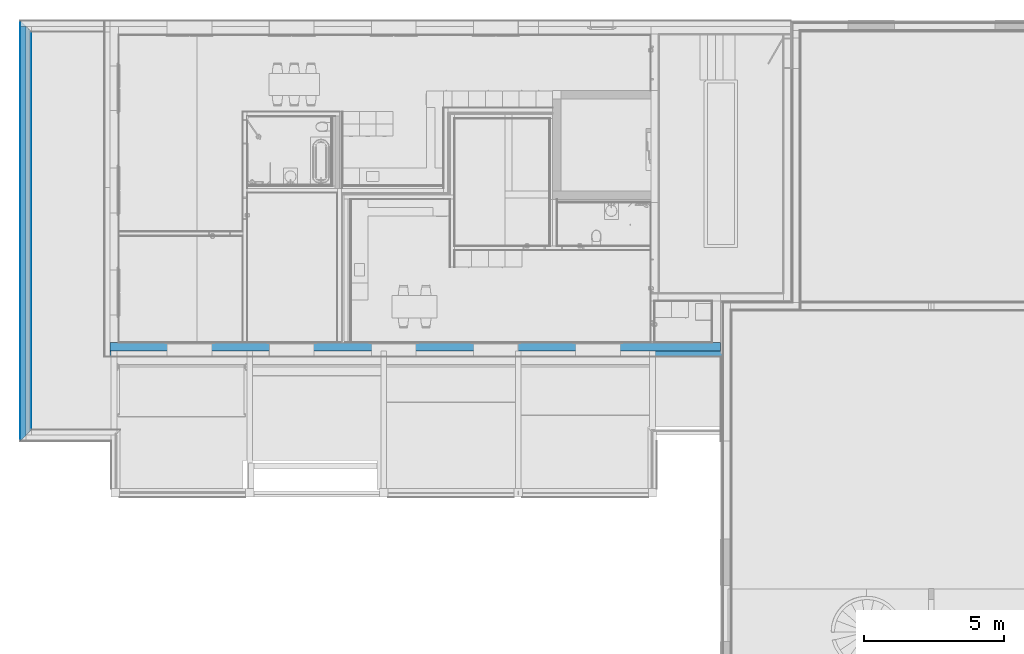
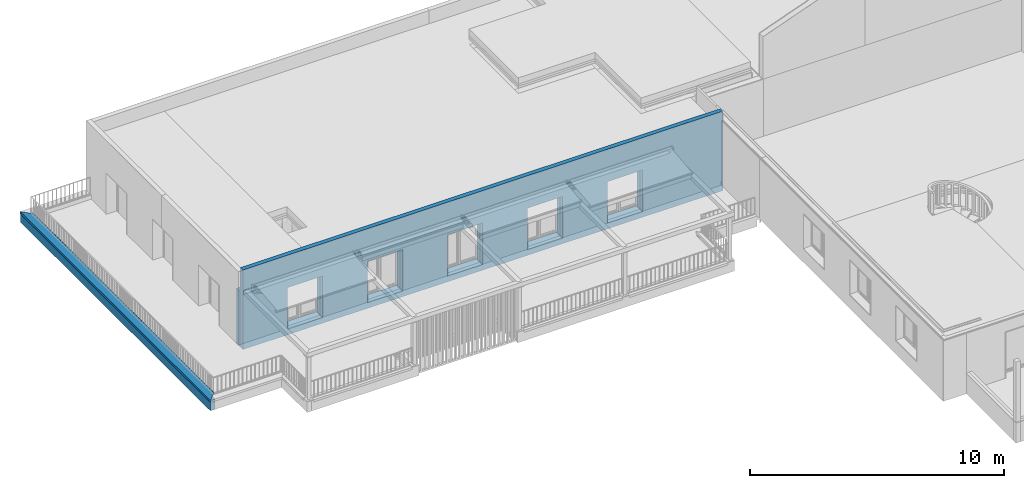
# One storey, part 6 of 36: 6 building element parts, 10 openings, 4 elements without a shape of their own.
"""IFC4 building model written with IfcOpenShell, lengths in millimetres."""

from ifc_helpers import new_model, entity, si_unit, converted_unit, derived_unit, direction, frame, origin_with_axes, place, context, subcontext, project, spatial, polygons, material, type_object, element, aggregate, save


model = new_model("IFC4")

# Units and contexts
model_context = context("Model", 3, precision=0.01, world=origin_with_axes(), true_north=direction((0.0, 1.0)))
body_context = subcontext(model_context, "Body", "Model", "MODEL_VIEW")
ifc_project = project(units=[si_unit("LENGTHUNIT", "METRE", prefix="MILLI"), si_unit("AREAUNIT", "SQUARE_METRE"), si_unit("VOLUMEUNIT", "CUBIC_METRE"), converted_unit("PLANEANGLEUNIT", "DEGREE", entity("IfcPlaneAngleMeasure", 0.0174532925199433), si_unit("PLANEANGLEUNIT", "RADIAN"), dimensions=[0, 0, 0, 0, 0, 0, 0]), converted_unit("TIMEUNIT", "Year", entity("IfcTimeMeasure", 31557600.0), si_unit("TIMEUNIT", "SECOND"), dimensions=[0, 0, 1, 0, 0, 0, 0]), si_unit("MASSUNIT", "GRAM", prefix="KILO"), si_unit("THERMODYNAMICTEMPERATUREUNIT", "DEGREE_CELSIUS"), si_unit("LUMINOUSINTENSITYUNIT", "LUMEN"), si_unit("ENERGYUNIT", "JOULE", prefix="MEGA"), derived_unit("THERMALCONDUCTANCEUNIT", [(si_unit("POWERUNIT", "WATT"), 1), (si_unit("LENGTHUNIT", "METRE"), -1), (si_unit("THERMODYNAMICTEMPERATUREUNIT", "KELVIN"), -1)]), derived_unit("SPECIFICHEATCAPACITYUNIT", [(si_unit("ENERGYUNIT", "JOULE"), 1), (si_unit("MASSUNIT", "GRAM", prefix="KILO"), -1), (si_unit("THERMODYNAMICTEMPERATUREUNIT", "KELVIN"), -1)]), derived_unit("MASSDENSITYUNIT", [(si_unit("MASSUNIT", "GRAM", prefix="KILO"), 1), (si_unit("VOLUMEUNIT", "CUBIC_METRE"), -1)])], contexts=[model_context])

# Site, building, storey
site_placement = place(None, origin_with_axes())
site = spatial("IfcSite", under=ifc_project, at=site_placement, Name="Gelände", CompositionType="ELEMENT")
building_placement = place(site_placement, origin_with_axes())
building = spatial("IfcBuilding", under=site, at=building_placement, Name="Gebäude", CompositionType="ELEMENT")
storey_placement = place(building_placement, frame((0.0, 0.0, 8700.0), z_axis=(0.0, 0.0, 1.0), x_axis=(1.0, 0.0, 0.0)))
storey = spatial("IfcBuildingStorey", under=building, at=storey_placement, Name="Attika", CompositionType="ELEMENT", Elevation=8700.0)

# Curtain wall, openings, building element part
curtain_wall_type = type_object("IfcCurtainWallType", Name="Fassade Typ 01 - Kompaktfassade 210", PredefinedType="NOTDEFINED")
curtain_wall_1_placement = place(storey_placement, frame((-4071.004181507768, 25947.59674077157, 0.0), z_axis=(0.0, 0.0, 1.0), x_axis=(1.0, 0.0, 0.0)))
curtain_wall_1 = element("IfcCurtainWall", 1, at=curtain_wall_1_placement, inside=storey, type_object=curtain_wall_type, Name="Wand-014", PredefinedType="NOTDEFINED")
opening_1_placement = place(curtain_wall_1_placement, frame((3043.999999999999, 0.0, 261.9999480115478), z_axis=(0.0, 0.0, 1.0), x_axis=(1.0, 0.0, 0.0)))
element("IfcOpeningElement", 2, at=opening_1_placement, cuts=curtain_wall_1, Name="Fenster-004", context=body_context, identifier="Reference", shape_type="Tessellation", body=[
    polygons([(-802.0, -1.000000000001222, 2010.0), (-802.0, -1.000000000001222, 0.0), (802.0000000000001, -1.000000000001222, 0.0), (802.0000000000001, -1.000000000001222, 2010.0), (-802.0, 211.0000000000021, 2010.0), (-802.0, 211.0000000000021, 0.0), (802.0000000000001, 211.0000000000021, 0.0), (802.0000000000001, 211.0000000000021, 2010.0)], [[[1, 2, 3, 4]], [[5, 6, 2, 1]], [[6, 7, 3, 2]], [[7, 8, 4, 3]], [[8, 5, 1, 4]], [[7, 6, 5, 8]]], closed=True),
])
opening_2_placement = place(curtain_wall_1_placement, frame((10328.0, 0.0, 261.9999480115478), z_axis=(0.0, 0.0, 1.0), x_axis=(1.0, 0.0, 0.0)))
element("IfcOpeningElement", 3, at=opening_2_placement, cuts=curtain_wall_1, Name="Fenster-004", context=body_context, identifier="Reference", shape_type="Tessellation", body=[
    polygons([(-802.0000000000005, -1.000000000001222, 2010.0), (-802.0000000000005, -1.000000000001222, 0.0), (802.0000000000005, -1.000000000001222, 0.0), (802.0000000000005, -1.000000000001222, 2010.0), (-802.0000000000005, 211.0000000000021, 2010.0), (-802.0000000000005, 211.0000000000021, 0.0), (802.0000000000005, 211.0000000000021, 0.0), (802.0000000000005, 211.0000000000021, 2010.0)], [[[1, 2, 3, 4]], [[5, 6, 2, 1]], [[6, 7, 3, 2]], [[7, 8, 4, 3]], [[8, 5, 1, 4]], [[7, 6, 5, 8]]], closed=True),
])
opening_3_placement = place(curtain_wall_1_placement, frame((6685.999999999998, 0.0, 261.9999480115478), z_axis=(0.0, 0.0, 1.0), x_axis=(1.0, 0.0, 0.0)))
element("IfcOpeningElement", 4, at=opening_3_placement, cuts=curtain_wall_1, Name="Fenster-004", context=body_context, identifier="Reference", shape_type="Tessellation", body=[
    polygons([(-802.0, -1.000000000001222, 2010.0), (-802.0, -1.000000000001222, 0.0), (802.0, -1.000000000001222, 0.0), (802.0, -1.000000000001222, 2010.0), (-802.0, 211.0000000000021, 2010.0), (-802.0, 211.0000000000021, 0.0), (802.0, 211.0000000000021, 0.0), (802.0, 211.0000000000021, 2010.0)], [[[1, 2, 3, 4]], [[5, 6, 2, 1]], [[6, 7, 3, 2]], [[7, 8, 4, 3]], [[8, 5, 1, 4]], [[7, 6, 5, 8]]], closed=True),
])
opening_4_placement = place(curtain_wall_1_placement, frame((13969.99999999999, 0.0, 261.9999480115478), z_axis=(0.0, 0.0, 1.0), x_axis=(1.0, 0.0, 0.0)))
element("IfcOpeningElement", 5, at=opening_4_placement, cuts=curtain_wall_1, Name="Fenster-004", context=body_context, identifier="Reference", shape_type="Tessellation", body=[
    polygons([(-801.9999999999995, -1.000000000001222, 2010.0), (-801.9999999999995, -1.000000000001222, 0.0), (801.9999999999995, -1.000000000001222, 0.0), (801.9999999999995, -1.000000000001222, 2010.0), (-801.9999999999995, 211.0000000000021, 2010.0), (-801.9999999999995, 211.0000000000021, 0.0), (801.9999999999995, 211.0000000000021, 0.0), (801.9999999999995, 211.0000000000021, 2010.0)], [[[1, 2, 3, 4]], [[5, 6, 2, 1]], [[6, 7, 3, 2]], [[7, 8, 4, 3]], [[8, 5, 1, 4]], [[7, 6, 5, 8]]], closed=True),
])
opening_5_placement = place(curtain_wall_1_placement, frame((17612.0, 0.0, 261.9999480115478), z_axis=(0.0, 0.0, 1.0), x_axis=(1.0, 0.0, 0.0)))
element("IfcOpeningElement", 6, at=opening_5_placement, cuts=curtain_wall_1, Name="Fenster-004", context=body_context, identifier="Reference", shape_type="Tessellation", body=[
    polygons([(-801.9999999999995, -1.000000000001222, 2010.0), (-801.9999999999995, -1.000000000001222, 0.0), (801.9999999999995, -1.000000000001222, 0.0), (801.9999999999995, -1.000000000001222, 2010.0), (-801.9999999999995, 211.0000000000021, 2010.0), (-801.9999999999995, 211.0000000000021, 0.0), (801.9999999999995, 211.0000000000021, 0.0), (801.9999999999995, 211.0000000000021, 2010.0)], [[[1, 2, 3, 4]], [[5, 6, 2, 1]], [[6, 7, 3, 2]], [[7, 8, 4, 3]], [[8, 5, 1, 4]], [[7, 6, 5, 8]]], closed=True),
])
ifc_material_1 = material(Name="Dämmung Aussen")
building_element_part_1_placement = place(curtain_wall_1_placement, origin_with_axes())
building_element_part_1 = element("IfcBuildingElementPart", 7, at=building_element_part_1_placement, material=ifc_material_1, Name="Dämmung Aussen", PredefinedType="NOTDEFINED", context=body_context, shape_type="Tessellation", body=[
    polygons([(22071.00162627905, 10.00000000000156, 3830.999999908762), (210.0000000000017, 10.00000000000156, 3830.999999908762), (210.0000000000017, 10.00000000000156, 0.0), (22071.00162627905, 10.00000000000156, 0.0), (14868.19999999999, 9.999999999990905, 2650.0), (14668.19999999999, 9.999999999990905, 2650.0), (10077.39999999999, 9.999999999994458, 2650.0), (9877.39999999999, 9.999999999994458, 2650.0), (5286.599999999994, 9.99999999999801, 2650.0), (5086.599999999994, 9.99999999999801, 2650.0), (445.8000000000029, 9.99999999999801, 2650.0), (245.8000000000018, 10.00000000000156, 2650.0), (245.8000000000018, 10.00000000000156, 2850.0), (445.8000000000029, 9.99999999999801, 2850.0), (5086.599999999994, 9.99999999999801, 2850.0), (5286.599999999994, 9.999999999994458, 2850.0), (9877.39999999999, 9.999999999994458, 2850.0), (10077.39999999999, 9.999999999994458, 2850.0), (14668.19999999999, 9.999999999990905, 2850.0), (14868.19999999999, 9.999999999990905, 2850.0), (19458.99999999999, 9.999999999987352, 2850.0), (19658.99999999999, 10.00000000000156, 2850.0), (19658.99999999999, 10.00000000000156, 2650.0), (19458.99999999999, 9.999999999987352, 2650.0), (2241.999999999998, 10.00000000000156, 261.9999480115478), (2241.999999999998, 10.00000000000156, 2271.999948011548), (3845.999999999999, 10.00000000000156, 2271.999948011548), (3845.999999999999, 10.00000000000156, 261.9999480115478), (7487.999999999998, 10.00000000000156, 261.9999480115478), (5883.999999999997, 10.00000000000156, 261.9999480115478), (5883.999999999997, 10.00000000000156, 2271.999948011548), (7487.999999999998, 10.00000000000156, 2271.999948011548), (11130.0, 10.00000000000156, 2271.999948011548), (11130.0, 10.00000000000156, 261.9999480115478), (9526.0, 10.00000000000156, 261.9999480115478), (9526.0, 10.00000000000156, 2271.999948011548), (13168.0, 10.00000000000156, 2271.999948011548), (14771.99999999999, 10.00000000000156, 2271.999948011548), (14771.99999999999, 10.00000000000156, 261.9999480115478), (13168.0, 10.00000000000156, 261.9999480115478), (16810.0, 10.00000000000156, 261.9999480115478), (16810.0, 10.00000000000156, 2271.999948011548), (18414.0, 10.00000000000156, 2271.999948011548), (18414.0, 10.00000000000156, 261.9999480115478), (22071.00162627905, 210.0000000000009, 3830.999999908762), (210.0000000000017, 210.0000000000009, 3830.999999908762), (210.0000000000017, 210.0000000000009, 0.0), (22071.00162627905, 210.0000000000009, 0.0), (19658.99999999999, 210.0000000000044, 2650.0), (245.8000000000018, 210.0000000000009, 2650.0), (245.8000000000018, 210.0000000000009, 2850.0), (19658.99999999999, 210.0000000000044, 2850.0), (2241.999999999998, 210.0000000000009, 261.9999480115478), (2241.999999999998, 210.0000000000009, 2271.999948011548), (3845.999999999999, 210.0000000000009, 2271.999948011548), (3845.999999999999, 210.0000000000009, 261.9999480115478), (7487.999999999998, 210.0000000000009, 261.9999480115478), (5883.999999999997, 210.0000000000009, 261.9999480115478), (5883.999999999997, 210.0000000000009, 2271.999948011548), (7487.999999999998, 210.0000000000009, 2271.999948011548), (11130.0, 210.0000000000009, 2271.999948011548), (11130.0, 210.0000000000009, 261.9999480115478), (9526.0, 210.0000000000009, 261.9999480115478), (9526.0, 210.0000000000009, 2271.999948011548), (14771.99999999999, 210.0000000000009, 2271.999948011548), (13168.0, 210.0000000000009, 2271.999948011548), (14771.99999999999, 210.0000000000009, 261.9999480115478), (13168.0, 210.0000000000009, 261.9999480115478), (16810.0, 210.0000000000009, 261.9999480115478), (16810.0, 210.0000000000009, 2271.999948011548), (18414.0, 210.0000000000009, 2271.999948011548), (18414.0, 210.0000000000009, 261.9999480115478)], [[[1, 2, 3, 4], [5, 6, 7, 8, 9, 10, 11, 12, 13, 14, 15, 16, 17, 18, 19, 20, 21, 22, 23, 24], [25, 26, 27, 28], [29, 30, 31, 32], [33, 34, 35, 36], [37, 38, 39, 40], [41, 42, 43, 44]], [[1, 45, 46, 2]], [[2, 46, 47, 3]], [[48, 4, 3, 47]], [[45, 1, 4, 48]], [[8, 7, 6, 5, 24, 23, 49, 50, 12, 11, 10, 9]], [[51, 13, 12, 50]], [[51, 52, 22, 21, 20, 19, 18, 17, 16, 15, 14, 13]], [[49, 23, 22, 52]], [[53, 54, 26, 25]], [[54, 55, 27, 26]], [[55, 56, 28, 27]], [[56, 53, 25, 28]], [[29, 57, 58, 30]], [[30, 58, 59, 31]], [[31, 59, 60, 32]], [[32, 60, 57, 29]], [[34, 33, 61, 62]], [[35, 34, 62, 63]], [[36, 35, 63, 64]], [[33, 36, 64, 61]], [[65, 38, 37, 66]], [[67, 39, 38, 65]], [[68, 40, 39, 67]], [[66, 37, 40, 68]], [[69, 70, 42, 41]], [[70, 71, 43, 42]], [[71, 72, 44, 43]], [[72, 69, 41, 44]], [[45, 48, 47, 46], [50, 49, 52, 51], [53, 56, 55, 54], [59, 58, 57, 60], [61, 64, 63, 62], [67, 65, 66, 68], [69, 72, 71, 70]]], closed=True),
])
aggregate(curtain_wall_1, [building_element_part_1])

# Curtain wall, building element parts
curtain_wall_2_placement = place(storey_placement, frame((-7071.004181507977, 22947.59674077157, 0.0), z_axis=(0.0, 0.0, 1.0), x_axis=(0.0, 1.0, 0.0)))
curtain_wall_2 = element("IfcCurtainWall", 8, at=curtain_wall_2_placement, inside=storey, type_object=curtain_wall_type, Name="Wand-014", PredefinedType="NOTDEFINED")
ifc_material_2 = material(Name="Zementputz Aussen")
building_element_part_2_placement = place(curtain_wall_2_placement, origin_with_axes())
building_element_part_2 = element("IfcBuildingElementPart", 9, at=building_element_part_2_placement, material=ifc_material_2, Name="Zementputz Aussen", PredefinedType="NOTDEFINED", context=body_context, shape_type="Tessellation", body=[
    polygons([(14990.00054054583, -9.999999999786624, 500.0), (14990.00054054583, 2.131628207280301e-10, 500.0), (0.0, 0.0, 500.0), (0.0, -9.999999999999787, 500.0), (14990.00054054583, -9.999999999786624, 0.0), (14990.00054054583, 2.131628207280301e-10, 0.0), (0.0, 0.0, 0.0), (0.0, -9.999999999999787, 0.0)], [[[1, 2, 3, 4]], [[2, 1, 5, 6]], [[2, 6, 7, 3]], [[8, 4, 3, 7]], [[5, 1, 4, 8]], [[6, 5, 8, 7]]], closed=True),
])
building_element_part_3_placement = place(curtain_wall_2_placement, origin_with_axes())
building_element_part_3 = element("IfcBuildingElementPart", 10, at=building_element_part_3_placement, material=ifc_material_1, Name="Dämmung Aussen", PredefinedType="NOTDEFINED", context=body_context, shape_type="Tessellation", body=[
    polygons([(14790.00054054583, -209.9999999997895, 500.0), (14790.00054054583, -9.999999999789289, 500.0), (9.999999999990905, -9.999999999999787, 500.0), (9.999999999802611, -210.0, 500.0), (14790.00054054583, -209.9999999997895, 0.0), (14790.00054054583, -9.999999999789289, 0.0), (9.999999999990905, -9.999999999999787, 0.0), (9.999999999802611, -210.0, 0.0)], [[[1, 2, 3, 4]], [[2, 1, 5, 6]], [[2, 6, 7, 3]], [[8, 4, 3, 7]], [[5, 1, 4, 8]], [[6, 5, 8, 7]]], closed=True),
])
aggregate(curtain_wall_2, [building_element_part_2, building_element_part_3])

# Covering, building element parts
covering_type = type_object("IfcCoveringType", Name="Brüstungsabdeckung 05 405 x 100", PredefinedType="NOTDEFINED")
covering_placement = place(storey_placement, frame((-6861.004181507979, 23157.59674081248, 500.0), z_axis=(0.0, 0.0, 1.0), x_axis=(1.0, 0.0, 0.0)))
covering = element("IfcCovering", 11, at=covering_placement, inside=storey, type_object=covering_type, Name="Unterzug-027", PredefinedType="NOTDEFINED")
ifc_material_3 = material(Name="Stahl")
building_element_part_4_placement = place(covering_placement, origin_with_axes())
building_element_part_4 = element("IfcBuildingElementPart", 12, at=building_element_part_4_placement, material=ifc_material_3, Name="Stahl", PredefinedType="NOTDEFINED", context=body_context, shape_type="Tessellation", body=[
    polygons([(-217.7000901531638, 14797.70063065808, 2.52675749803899), (-217.7001324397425, 14797.70067294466, -97.47324404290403), (-217.7001324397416, -217.7001324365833, -97.47324404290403), (-217.7000901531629, -217.7000901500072, 2.52675749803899), (184.9999986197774, 14395.00054188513, 2.52675749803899), (184.9999986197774, 14395.00054188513, 1.533122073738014e-06), (-215.0000015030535, 14795.00054200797, 1.533122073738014e-06), (-215.00008607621, 14795.00062658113, -97.47324404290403), (-215.00008607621, -215.0000860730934, -97.47324404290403), (-215.0000015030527, -215.0000014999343, 1.533122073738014e-06), (184.9999986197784, 184.9999986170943, 1.533122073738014e-06), (184.9999986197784, 184.9999986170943, 2.52675749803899)], [[[1, 2, 3, 4]], [[1, 5, 6, 7, 8, 2]], [[2, 8, 9, 3]], [[4, 3, 9, 10, 11, 12]], [[5, 1, 4, 12]], [[6, 5, 12, 11]], [[7, 6, 11, 10]], [[8, 7, 10, 9]]], closed=True),
])
building_element_part_5_placement = place(covering_placement, origin_with_axes())
building_element_part_5 = element("IfcBuildingElementPart", 13, at=building_element_part_5_placement, material=ifc_material_3, Name="Stahl", PredefinedType="NOTDEFINED", context=body_context, shape_type="Tessellation", body=[
    polygons([(185.000000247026, 14395.00054025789, -5.935394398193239e-07), (184.9999138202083, 14395.0006266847, -97.47324404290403), (184.9999138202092, 184.9999138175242, -97.47324404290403), (185.000000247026, 185.0000002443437, -5.935394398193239e-07), (185.000000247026, 14395.00054025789, 2.526755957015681), (187.7000872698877, 14392.30045323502, 2.526755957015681), (187.6999606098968, 14392.30057989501, -97.47324404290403), (187.6999606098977, 187.6999606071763, -97.47324404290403), (187.7000872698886, 187.7000872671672, 2.526755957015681), (185.000000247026, 185.0000002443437, 2.526755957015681)], [[[1, 2, 3, 4]], [[1, 5, 6, 7, 2]], [[2, 7, 8, 3]], [[4, 3, 8, 9, 10]], [[5, 1, 4, 10]], [[6, 5, 10, 9]], [[7, 6, 9, 8]]], closed=True),
])
aggregate(covering, [building_element_part_4, building_element_part_5])

# Wall, openings, building element part
wall_type = type_object("IfcWallType", Name="Aussenwand Typ 06 310", PredefinedType="NOTDEFINED")
wall_placement = place(storey_placement, frame((-3861.004181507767, 26157.59674077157, 0.0), z_axis=(0.0, 0.0, 1.0), x_axis=(1.0, 0.0, 0.0)))
wall = element("IfcWall", 14, at=wall_placement, inside=storey, type_object=wall_type, Name="Wand-014", PredefinedType="NOTDEFINED")
opening_6_placement = place(wall_placement, frame((6475.999999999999, 0.0, 309.9999481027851), z_axis=(0.0, 0.0, 1.0), x_axis=(1.0, 0.0, 0.0)))
element("IfcOpeningElement", 15, at=opening_6_placement, cuts=wall, Name="Fenster-004", context=body_context, identifier="Reference", shape_type="Tessellation", body=[
    polygons([(-800.0, 0.0, 1961.999999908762), (800.0000000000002, 0.0, 1961.999999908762), (800.0000000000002, -1.000000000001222, 1961.999999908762), (802.0, -1.000000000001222, 1961.999999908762), (802.0, 250.0, 1961.999999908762), (-802.0, 250.0, 1961.999999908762), (-802.0, -1.000000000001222, 1961.999999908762), (-800.0, -1.000000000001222, 1961.999999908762), (-800.0, 0.0, 2249.999999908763), (800.0000000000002, 0.0, 2249.999999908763), (800.0000000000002, -149.9999999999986, 2249.999999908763), (800.0000000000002, -149.9999999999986, 1959.999999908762), (800.0000000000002, -1.000000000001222, 1959.999999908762), (-800.0, -1.000000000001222, 1959.999999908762), (-802.0, -1.000000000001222, -60.0000000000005), (802.0, -1.000000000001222, -60.0000000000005), (802.0, 250.0, -60.0000000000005), (902.0000000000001, 250.0, -60.0000000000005), (902.0000000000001, 250.0, 2061.999999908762), (-902.0000000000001, 250.0, 2061.999999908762), (-902.0000000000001, 250.0, -60.0000000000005), (-802.0000000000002, 250.0, -60.0000000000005), (-800.0, -149.9999999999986, 1959.999999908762), (-800.0, -149.9999999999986, 2249.999999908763), (-902.0000000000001, 310.9999999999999, -60.0000000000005), (902.0000000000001, 310.9999999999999, -60.0000000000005), (902.0000000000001, 310.9999999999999, 2061.999999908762), (-902.0000000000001, 310.9999999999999, 2061.999999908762)], [[[1, 2, 3, 4, 5, 6, 7, 8]], [[2, 1, 9, 10]], [[3, 2, 10, 11, 12, 13]], [[14, 8, 7, 15, 16, 4, 3, 13]], [[17, 5, 4, 16]], [[6, 5, 17, 18, 19, 20, 21, 22]], [[6, 22, 15, 7]], [[1, 8, 14, 23, 24, 9]], [[9, 24, 11, 10]], [[24, 23, 12, 11]], [[14, 13, 12, 23]], [[22, 17, 16, 15]], [[17, 22, 21, 25, 26, 18]], [[19, 18, 26, 27]], [[20, 19, 27, 28]], [[21, 20, 28, 25]], [[27, 26, 25, 28]]], closed=True),
])
opening_7_placement = place(wall_placement, frame((2834.0, 0.0, 309.9999481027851), z_axis=(0.0, 0.0, 1.0), x_axis=(1.0, 0.0, 0.0)))
element("IfcOpeningElement", 16, at=opening_7_placement, cuts=wall, Name="Fenster-004", context=body_context, identifier="Reference", shape_type="Tessellation", body=[
    polygons([(-800.0000000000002, 0.0, 1961.999999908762), (800.0000000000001, 0.0, 1961.999999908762), (800.0, -1.000000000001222, 1961.999999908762), (802.0000000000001, -1.000000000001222, 1961.999999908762), (802.0000000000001, 250.0, 1961.999999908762), (-802.0, 250.0, 1961.999999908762), (-802.0, -1.000000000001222, 1961.999999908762), (-800.0000000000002, -1.000000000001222, 1961.999999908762), (-800.0000000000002, 0.0, 2249.999999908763), (800.0000000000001, 0.0, 2249.999999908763), (800.0000000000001, -149.9999999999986, 2249.999999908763), (800.0000000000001, -149.9999999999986, 1959.999999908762), (800.0000000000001, -1.000000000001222, 1959.999999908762), (-800.0000000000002, -1.000000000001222, 1959.999999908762), (-802.0, -1.000000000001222, -60.0000000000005), (802.0000000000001, -1.000000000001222, -60.0000000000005), (802.0000000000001, 250.0, -60.0000000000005), (902.0000000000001, 250.0, -60.0000000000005), (902.0000000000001, 250.0, 2061.999999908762), (-902.0000000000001, 250.0, 2061.999999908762), (-902.0000000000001, 250.0, -60.0000000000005), (-802.0, 250.0, -60.0000000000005), (-800.0000000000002, -149.9999999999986, 1959.999999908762), (-800.0000000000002, -149.9999999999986, 2249.999999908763), (-902.0000000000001, 310.9999999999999, -60.0000000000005), (902.0000000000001, 310.9999999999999, -60.0000000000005), (902.0000000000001, 310.9999999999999, 2061.999999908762), (-902.0000000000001, 310.9999999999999, 2061.999999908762)], [[[1, 2, 3, 4, 5, 6, 7, 8]], [[2, 1, 9, 10]], [[3, 2, 10, 11, 12, 13]], [[14, 8, 7, 15, 16, 4, 3, 13]], [[17, 5, 4, 16]], [[6, 5, 17, 18, 19, 20, 21, 22]], [[6, 22, 15, 7]], [[1, 8, 14, 23, 24, 9]], [[9, 24, 11, 10]], [[24, 23, 12, 11]], [[14, 13, 12, 23]], [[22, 17, 16, 15]], [[17, 22, 21, 25, 26, 18]], [[19, 18, 26, 27]], [[20, 19, 27, 28]], [[21, 20, 28, 25]], [[27, 26, 25, 28]]], closed=True),
])
opening_8_placement = place(wall_placement, frame((10118.0, 0.0, 309.9999481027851), z_axis=(0.0, 0.0, 1.0), x_axis=(1.0, 0.0, 0.0)))
element("IfcOpeningElement", 17, at=opening_8_placement, cuts=wall, Name="Fenster-004", context=body_context, identifier="Reference", shape_type="Tessellation", body=[
    polygons([(-800.0000000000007, 0.0, 1961.999999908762), (799.9999999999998, 0.0, 1961.999999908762), (799.9999999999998, -1.000000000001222, 1961.999999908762), (802.0000000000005, -1.000000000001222, 1961.999999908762), (802.0000000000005, 250.0, 1961.999999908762), (-802.0000000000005, 250.0, 1961.999999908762), (-802.0000000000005, -1.000000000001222, 1961.999999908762), (-800.0000000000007, -1.000000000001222, 1961.999999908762), (-800.0000000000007, 0.0, 2249.999999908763), (799.9999999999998, 0.0, 2249.999999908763), (799.9999999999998, -149.9999999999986, 2249.999999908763), (799.9999999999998, -149.9999999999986, 1959.999999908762), (799.9999999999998, -1.000000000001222, 1959.999999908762), (-800.0000000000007, -1.000000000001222, 1959.999999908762), (-802.0000000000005, -1.000000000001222, -60.0000000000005), (802.0000000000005, -1.000000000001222, -60.0000000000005), (802.0000000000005, 250.0, -60.0000000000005), (902.0000000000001, 250.0, -60.0000000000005), (902.0000000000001, 250.0, 2061.999999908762), (-902.0000000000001, 250.0, 2061.999999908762), (-902.0000000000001, 250.0, -60.0000000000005), (-802.0000000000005, 250.0, -60.0000000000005), (-800.0000000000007, -149.9999999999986, 1959.999999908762), (-800.0000000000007, -149.9999999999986, 2249.999999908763), (-902.0000000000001, 310.9999999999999, -60.0000000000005), (902.0000000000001, 310.9999999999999, -60.0000000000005), (902.0000000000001, 310.9999999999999, 2061.999999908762), (-902.0000000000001, 310.9999999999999, 2061.999999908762)], [[[1, 2, 3, 4, 5, 6, 7, 8]], [[2, 1, 9, 10]], [[3, 2, 10, 11, 12, 13]], [[14, 8, 7, 15, 16, 4, 3, 13]], [[17, 5, 4, 16]], [[6, 5, 17, 18, 19, 20, 21, 22]], [[6, 22, 15, 7]], [[1, 8, 14, 23, 24, 9]], [[9, 24, 11, 10]], [[24, 23, 12, 11]], [[14, 13, 12, 23]], [[22, 17, 16, 15]], [[17, 22, 21, 25, 26, 18]], [[19, 18, 26, 27]], [[20, 19, 27, 28]], [[21, 20, 28, 25]], [[27, 26, 25, 28]]], closed=True),
])
opening_9_placement = place(wall_placement, frame((13760.0, 0.0, 309.9999481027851), z_axis=(0.0, 0.0, 1.0), x_axis=(1.0, 0.0, 0.0)))
element("IfcOpeningElement", 18, at=opening_9_placement, cuts=wall, Name="Fenster-004", context=body_context, identifier="Reference", shape_type="Tessellation", body=[
    polygons([(-799.999999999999, 0.0, 1961.999999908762), (800.0000000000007, 0.0, 1961.999999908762), (800.0000000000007, -1.000000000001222, 1961.999999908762), (801.9999999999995, -1.000000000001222, 1961.999999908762), (801.9999999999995, 250.0, 1961.999999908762), (-801.9999999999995, 250.0, 1961.999999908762), (-801.9999999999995, -1.000000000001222, 1961.999999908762), (-799.999999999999, -1.000000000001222, 1961.999999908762), (-799.999999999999, 0.0, 2249.999999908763), (800.0000000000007, 0.0, 2249.999999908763), (800.0000000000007, -149.9999999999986, 2249.999999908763), (800.0000000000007, -149.9999999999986, 1959.999999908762), (800.0000000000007, -1.000000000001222, 1959.999999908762), (-799.999999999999, -1.000000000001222, 1959.999999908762), (-801.9999999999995, -1.000000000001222, -60.0000000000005), (801.9999999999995, -1.000000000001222, -60.0000000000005), (801.9999999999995, 250.0, -60.0000000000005), (902.000000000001, 250.0, -60.0000000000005), (902.000000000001, 250.0, 2061.999999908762), (-902.000000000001, 250.0, 2061.999999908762), (-902.000000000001, 250.0, -60.0000000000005), (-801.9999999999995, 250.0, -60.0000000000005), (-799.999999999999, -149.9999999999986, 1959.999999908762), (-799.999999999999, -149.9999999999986, 2249.999999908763), (-902.000000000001, 310.9999999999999, -60.0000000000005), (902.000000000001, 310.9999999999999, -60.0000000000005), (902.000000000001, 310.9999999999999, 2061.999999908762), (-902.000000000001, 310.9999999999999, 2061.999999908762)], [[[1, 2, 3, 4, 5, 6, 7, 8]], [[2, 1, 9, 10]], [[3, 2, 10, 11, 12, 13]], [[14, 8, 7, 15, 16, 4, 3, 13]], [[17, 5, 4, 16]], [[6, 5, 17, 18, 19, 20, 21, 22]], [[6, 22, 15, 7]], [[1, 8, 14, 23, 24, 9]], [[9, 24, 11, 10]], [[24, 23, 12, 11]], [[14, 13, 12, 23]], [[22, 17, 16, 15]], [[17, 22, 21, 25, 26, 18]], [[19, 18, 26, 27]], [[20, 19, 27, 28]], [[21, 20, 28, 25]], [[27, 26, 25, 28]]], closed=True),
])
opening_10_placement = place(wall_placement, frame((17402.0, 0.0, 309.9999481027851), z_axis=(0.0, 0.0, 1.0), x_axis=(1.0, 0.0, 0.0)))
element("IfcOpeningElement", 19, at=opening_10_placement, cuts=wall, Name="Fenster-004", context=body_context, identifier="Reference", shape_type="Tessellation", body=[
    polygons([(-799.999999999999, 0.0, 1961.999999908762), (800.0000000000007, 0.0, 1961.999999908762), (800.0000000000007, -1.000000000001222, 1961.999999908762), (801.9999999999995, -1.000000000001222, 1961.999999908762), (801.9999999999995, 250.0, 1961.999999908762), (-801.9999999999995, 250.0, 1961.999999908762), (-801.9999999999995, -1.000000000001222, 1961.999999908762), (-799.999999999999, -1.000000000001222, 1961.999999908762), (-799.999999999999, 0.0, 2249.999999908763), (800.0000000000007, 0.0, 2249.999999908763), (800.0000000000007, -149.9999999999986, 2249.999999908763), (800.0000000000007, -149.9999999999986, 1959.999999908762), (800.0000000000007, -1.000000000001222, 1959.999999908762), (-799.999999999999, -1.000000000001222, 1959.999999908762), (-801.9999999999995, -1.000000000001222, -60.0000000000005), (801.9999999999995, -1.000000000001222, -60.0000000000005), (801.9999999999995, 250.0, -60.0000000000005), (902.000000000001, 250.0, -60.0000000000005), (902.000000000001, 250.0, 2061.999999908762), (-902.000000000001, 250.0, 2061.999999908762), (-902.000000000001, 250.0, -60.0000000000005), (-801.9999999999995, 250.0, -60.0000000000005), (-799.999999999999, -149.9999999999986, 1959.999999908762), (-799.999999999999, -149.9999999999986, 2249.999999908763), (-902.000000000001, 310.9999999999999, -60.0000000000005), (902.000000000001, 310.9999999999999, -60.0000000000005), (902.000000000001, 310.9999999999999, 2061.999999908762), (-902.000000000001, 310.9999999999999, 2061.999999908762)], [[[1, 2, 3, 4, 5, 6, 7, 8]], [[2, 1, 9, 10]], [[3, 2, 10, 11, 12, 13]], [[14, 8, 7, 15, 16, 4, 3, 13]], [[17, 5, 4, 16]], [[6, 5, 17, 18, 19, 20, 21, 22]], [[6, 22, 15, 7]], [[1, 8, 14, 23, 24, 9]], [[9, 24, 11, 10]], [[24, 23, 12, 11]], [[14, 13, 12, 23]], [[22, 17, 16, 15]], [[17, 22, 21, 25, 26, 18]], [[19, 18, 26, 27]], [[20, 19, 27, 28]], [[21, 20, 28, 25]], [[27, 26, 25, 28]]], closed=True),
])
ifc_material_4 = material(Name="Beton bewehrt")
building_element_part_6_placement = place(wall_placement, origin_with_axes())
building_element_part_6 = element("IfcBuildingElementPart", 20, at=building_element_part_6_placement, material=ifc_material_4, Name="Beton bewehrt", PredefinedType="NOTDEFINED", context=body_context, shape_type="Tessellation", body=[
    polygons([(16600.0, 250.0, 2271.999948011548), (18204.0, 250.0, 2271.999948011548), (18204.0, 0.0, 2271.999948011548), (16600.0, 0.0, 2271.999948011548), (18204.0, 250.0, 249.9999481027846), (16600.0, 250.0, 249.9999481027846), (16500.0, 250.0, 249.9999481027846), (16500.0, 250.0, 2371.999948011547), (18304.0, 250.0, 2371.999948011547), (18304.0, 250.0, 249.9999481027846), (18204.0, 0.0, 249.9999481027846), (0.0, 0.0, 0.0), (21781.00162627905, 0.0, 0.0), (21781.00162627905, 0.0, 2650.0), (0.0, 0.0, 2650.0), (2031.999999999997, 0.0, 2271.999948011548), (3636.0, 0.0, 2271.999948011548), (3636.0, 0.0, 249.9999481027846), (2031.999999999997, 0.0, 249.9999481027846), (7277.999999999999, 0.0, 249.9999481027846), (5673.999999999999, 0.0, 249.9999481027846), (5673.999999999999, 0.0, 2271.999948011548), (7277.999999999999, 0.0, 2271.999948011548), (9315.999999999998, 0.0, 2271.999948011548), (10920.0, 0.0, 2271.999948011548), (10920.0, 0.0, 249.9999481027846), (9315.999999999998, 0.0, 249.9999481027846), (14562.0, 0.0, 249.9999481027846), (12958.0, 0.0, 249.9999481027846), (12958.0, 0.0, 2271.999948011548), (14562.0, 0.0, 2271.999948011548), (16600.0, 0.0, 249.9999481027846), (18304.0, 300.0000000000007, 249.9999481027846), (16500.0, 300.0000000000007, 249.9999481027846), (16500.0, 300.0000000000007, 2371.999948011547), (18304.0, 300.0000000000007, 2371.999948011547), (0.0, 300.0000000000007, 0.0), (21781.00162627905, 300.0000000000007, 0.0), (21781.00162627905, 300.0000000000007, 2650.0), (0.0, 300.0000000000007, 2650.0), (2031.999999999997, 250.0, 2271.999948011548), (3636.0, 250.0, 2271.999948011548), (3636.0, 250.0, 249.9999481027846), (2031.999999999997, 250.0, 249.9999481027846), (7277.999999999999, 250.0, 249.9999481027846), (5673.999999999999, 250.0, 249.9999481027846), (5673.999999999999, 250.0, 2271.999948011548), (7277.999999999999, 250.0, 2271.999948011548), (9315.999999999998, 250.0, 2271.999948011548), (10920.0, 250.0, 2271.999948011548), (10920.0, 250.0, 249.9999481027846), (9315.999999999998, 250.0, 249.9999481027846), (14562.0, 250.0, 249.9999481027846), (12958.0, 250.0, 249.9999481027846), (12958.0, 250.0, 2271.999948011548), (14562.0, 250.0, 2271.999948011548), (1932.0, 300.0000000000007, 249.9999481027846), (3736.0, 300.0000000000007, 249.9999481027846), (3736.0, 300.0000000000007, 2371.999948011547), (1932.0, 300.0000000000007, 2371.999948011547), (7377.999999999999, 300.0000000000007, 2371.999948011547), (5573.999999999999, 300.0000000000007, 2371.999948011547), (5573.999999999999, 300.0000000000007, 249.9999481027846), (7377.999999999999, 300.0000000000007, 249.9999481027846), (9216.000000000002, 300.0000000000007, 249.9999481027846), (11020.0, 300.0000000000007, 249.9999481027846), (11020.0, 300.0000000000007, 2371.999948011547), (9216.000000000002, 300.0000000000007, 2371.999948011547), (14662.0, 300.0000000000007, 2371.999948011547), (12858.0, 300.0000000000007, 2371.999948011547), (12858.0, 300.0000000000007, 249.9999481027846), (14662.0, 300.0000000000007, 249.9999481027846), (1932.0, 250.0, 249.9999481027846), (1932.0, 250.0, 2371.999948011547), (3736.0, 250.0, 2371.999948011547), (3736.0, 250.0, 249.9999481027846), (5573.999999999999, 250.0, 249.9999481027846), (7377.999999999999, 250.0, 249.9999481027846), (7377.999999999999, 250.0, 2371.999948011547), (5573.999999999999, 250.0, 2371.999948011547), (9216.000000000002, 250.0, 249.9999481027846), (9216.000000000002, 250.0, 2371.999948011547), (11020.0, 250.0, 2371.999948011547), (11020.0, 250.0, 249.9999481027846), (12858.0, 250.0, 249.9999481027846), (14662.0, 250.0, 249.9999481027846), (12858.0, 250.0, 2371.999948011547), (14662.0, 250.0, 2371.999948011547)], [[[1, 2, 3, 4]], [[5, 2, 1, 6, 7, 8, 9, 10]], [[2, 5, 11, 3]], [[12, 13, 14, 15], [16, 17, 18, 19], [20, 21, 22, 23], [24, 25, 26, 27], [28, 29, 30, 31], [4, 3, 11, 32]], [[6, 1, 4, 32]], [[33, 34, 7, 6, 5, 10]], [[34, 35, 8, 7]], [[35, 36, 9, 8]], [[36, 33, 10, 9]], [[5, 6, 32, 11]], [[37, 38, 13, 12]], [[14, 13, 38, 39]], [[15, 14, 39, 40]], [[15, 40, 37, 12]], [[41, 42, 17, 16]], [[42, 43, 18, 17]], [[43, 44, 19, 18]], [[44, 41, 16, 19]], [[21, 20, 45, 46]], [[22, 21, 46, 47]], [[23, 22, 47, 48]], [[20, 23, 48, 45]], [[49, 50, 25, 24]], [[50, 51, 26, 25]], [[51, 52, 27, 26]], [[52, 49, 24, 27]], [[29, 28, 53, 54]], [[30, 29, 54, 55]], [[31, 30, 55, 56]], [[28, 31, 56, 53]], [[40, 39, 38, 37], [57, 58, 59, 60], [61, 62, 63, 64], [65, 66, 67, 68], [69, 70, 71, 72], [34, 33, 36, 35]], [[43, 42, 41, 44, 73, 74, 75, 76]], [[58, 57, 73, 44, 43, 76]], [[64, 63, 77, 46, 45, 78]], [[79, 78, 45, 48, 47, 46, 77, 80]], [[81, 82, 83, 84, 51, 50, 49, 52]], [[66, 65, 81, 52, 51, 84]], [[72, 71, 85, 54, 53, 86]], [[55, 54, 85, 87, 88, 86, 53, 56]], [[59, 58, 76, 75]], [[60, 59, 75, 74]], [[57, 60, 74, 73]], [[79, 80, 62, 61]], [[80, 77, 63, 62]], [[78, 79, 61, 64]], [[67, 66, 84, 83]], [[68, 67, 83, 82]], [[65, 68, 82, 81]], [[88, 87, 70, 69]], [[87, 85, 71, 70]], [[86, 88, 69, 72]]], closed=True),
])
aggregate(wall, [building_element_part_6])

save(model, "model.ifc")
